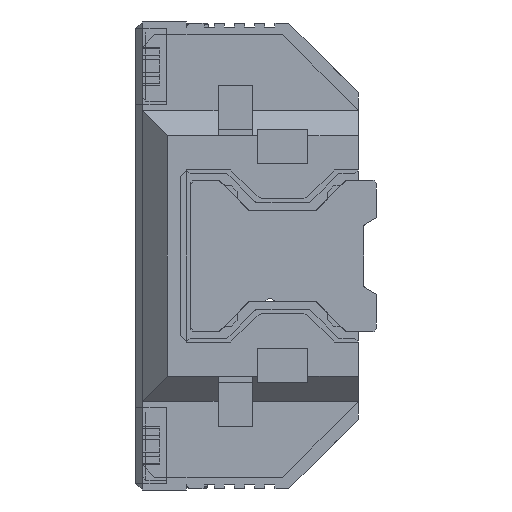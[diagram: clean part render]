
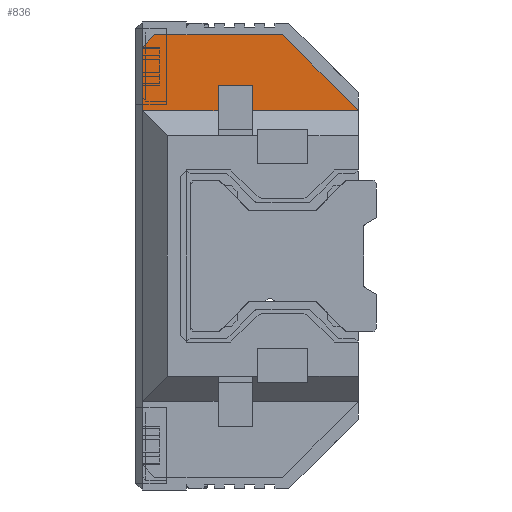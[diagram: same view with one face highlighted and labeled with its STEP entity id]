
A CAD part, left-side view. The second image highlights one B-rep face of the part: STEP entity #836.
In plain terms, the highlighted planar face has unit normal (-1, 0, 0).
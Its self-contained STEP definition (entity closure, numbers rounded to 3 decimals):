
#836 = ADVANCED_FACE( '', ( #2834 ), #2835, .T. );
#2834 = FACE_OUTER_BOUND( '', #4987, .T. );
#2835 = PLANE( '', #4988 );
#4987 = EDGE_LOOP( '', ( #9985, #9986, #9987, #9988, #9989, #9990, #9991, #9992, #9993 ) );
#4988 = AXIS2_PLACEMENT_3D( '', #9994, #9995, #9996 );
#9985 = ORIENTED_EDGE( '', *, *, #12582, .F. );
#9986 = ORIENTED_EDGE( '', *, *, #12580, .T. );
#9987 = ORIENTED_EDGE( '', *, *, #12587, .T. );
#9988 = ORIENTED_EDGE( '', *, *, #12593, .T. );
#9989 = ORIENTED_EDGE( '', *, *, #12594, .F. );
#9990 = ORIENTED_EDGE( '', *, *, #12595, .F. );
#9991 = ORIENTED_EDGE( '', *, *, #12596, .F. );
#9992 = ORIENTED_EDGE( '', *, *, #12597, .F. );
#9993 = ORIENTED_EDGE( '', *, *, #12598, .T. );
#9994 = CARTESIAN_POINT( '', ( -35., 32., 29. ) );
#9995 = DIRECTION( '', ( -1., 0., 0. ) );
#9996 = DIRECTION( '', ( 0., 0., 1. ) );
#12580 = EDGE_CURVE( '', #15464, #15469, #15471, .T. );
#12582 = EDGE_CURVE( '', #15464, #15473, #15474, .T. );
#12587 = EDGE_CURVE( '', #15469, #15480, #15482, .T. );
#12593 = EDGE_CURVE( '', #15480, #14319, #15492, .T. );
#12594 = EDGE_CURVE( '', #15493, #14319, #15494, .T. );
#12595 = EDGE_CURVE( '', #15495, #15493, #15496, .T. );
#12596 = EDGE_CURVE( '', #15497, #15495, #15498, .T. );
#12597 = EDGE_CURVE( '', #15487, #15497, #15499, .T. );
#12598 = EDGE_CURVE( '', #15487, #15473, #15500, .T. );
#14319 = VERTEX_POINT( '', #17687 );
#15464 = VERTEX_POINT( '', #19276 );
#15469 = VERTEX_POINT( '', #19283 );
#15471 = LINE( '', #19286, #19287 );
#15473 = VERTEX_POINT( '', #19290 );
#15474 = LINE( '', #19291, #19292 );
#15480 = VERTEX_POINT( '', #19301 );
#15482 = LINE( '', #19304, #19305 );
#15487 = VERTEX_POINT( '', #19312 );
#15492 = LINE( '', #19320, #19321 );
#15493 = VERTEX_POINT( '', #19322 );
#15494 = LINE( '', #19323, #19324 );
#15495 = VERTEX_POINT( '', #19325 );
#15496 = LINE( '', #19326, #19327 );
#15497 = VERTEX_POINT( '', #19328 );
#15498 = LINE( '', #19329, #19330 );
#15499 = LINE( '', #19331, #19332 );
#15500 = LINE( '', #19333, #19334 );
#17687 = CARTESIAN_POINT( '', ( -35., -5.95, 11.5 ) );
#19276 = CARTESIAN_POINT( '', ( -35., 5.15, 13.5 ) );
#19283 = CARTESIAN_POINT( '', ( -35., 2.45, 13.5 ) );
#19286 = CARTESIAN_POINT( '', ( -35., 32., 13.5 ) );
#19287 = VECTOR( '', #22786, 1000. );
#19290 = CARTESIAN_POINT( '', ( -35., 5.15, 11.5 ) );
#19291 = CARTESIAN_POINT( '', ( -35., 5.15, 29. ) );
#19292 = VECTOR( '', #22788, 1000. );
#19301 = CARTESIAN_POINT( '', ( -35., 2.45, 11.5 ) );
#19304 = CARTESIAN_POINT( '', ( -35., 2.45, 29. ) );
#19305 = VECTOR( '', #22793, 1000. );
#19312 = CARTESIAN_POINT( '', ( -35., 11.15, 11.5 ) );
#19320 = CARTESIAN_POINT( '', ( -35., 32., 11.5 ) );
#19321 = VECTOR( '', #22799, 1000. );
#19322 = CARTESIAN_POINT( '', ( -35., 0.05, 17.5 ) );
#19323 = CARTESIAN_POINT( '', ( -35., 0.05, 17.5 ) );
#19324 = VECTOR( '', #22800, 1000. );
#19325 = CARTESIAN_POINT( '', ( -35., 10.15, 17.5 ) );
#19326 = CARTESIAN_POINT( '', ( -35., 10.15, 17.5 ) );
#19327 = VECTOR( '', #22801, 1000. );
#19328 = CARTESIAN_POINT( '', ( -35., 11.15, 16.5 ) );
#19329 = CARTESIAN_POINT( '', ( -35., 11.15, 16.5 ) );
#19330 = VECTOR( '', #22802, 1000. );
#19331 = CARTESIAN_POINT( '', ( -35., 11.15, -16.5 ) );
#19332 = VECTOR( '', #22803, 1000. );
#19333 = CARTESIAN_POINT( '', ( -35., 32., 11.5 ) );
#19334 = VECTOR( '', #22804, 1000. );
#22786 = DIRECTION( '', ( 0., -1., 0. ) );
#22788 = DIRECTION( '', ( 0., 0., -1. ) );
#22793 = DIRECTION( '', ( 0., 0., -1. ) );
#22799 = DIRECTION( '', ( 0., -1., 0. ) );
#22800 = DIRECTION( '', ( 0., -0.707, -0.707 ) );
#22801 = DIRECTION( '', ( 0., -1., 0. ) );
#22802 = DIRECTION( '', ( 0., -0.707, 0.707 ) );
#22803 = DIRECTION( '', ( 0., 0., 1. ) );
#22804 = DIRECTION( '', ( 0., -1., 0. ) );
